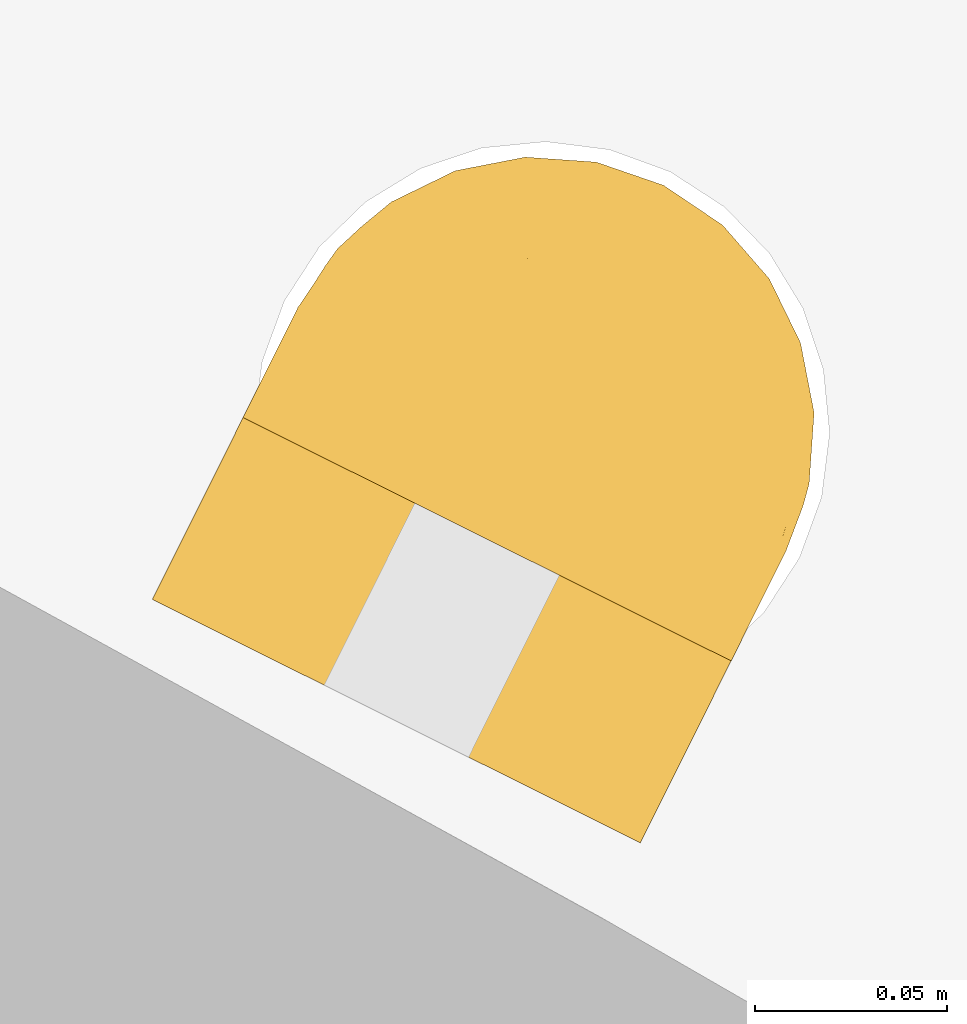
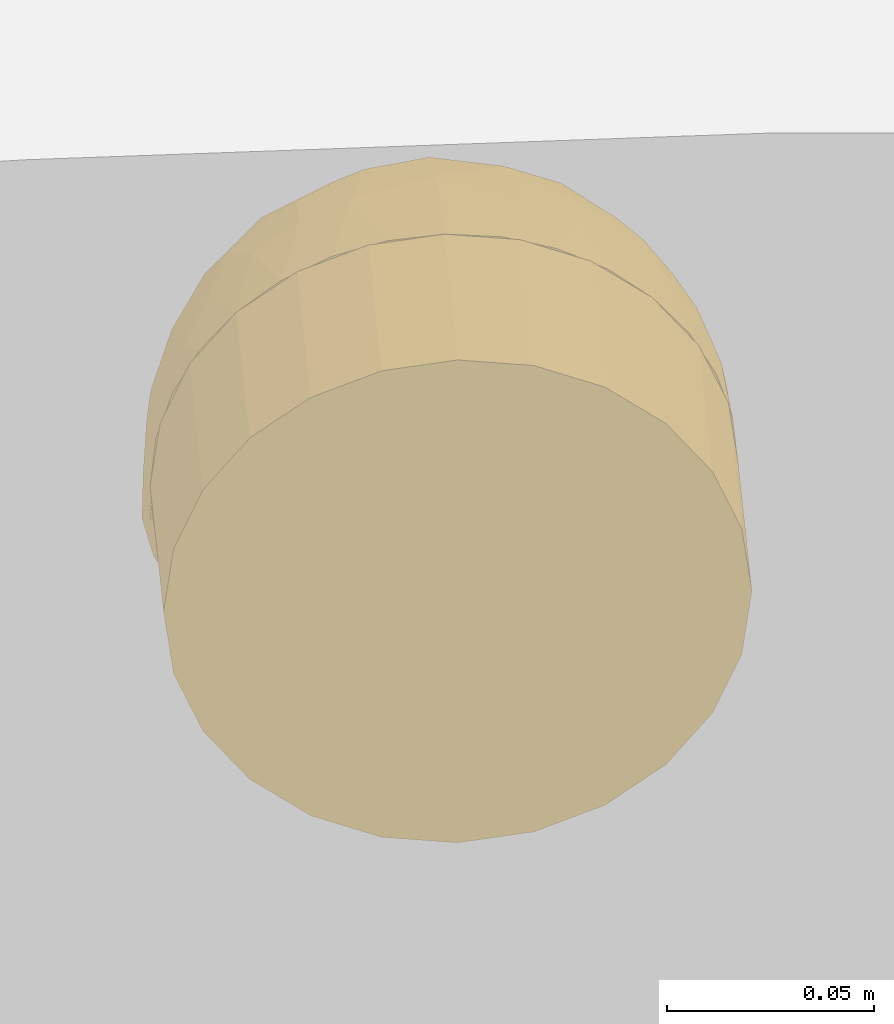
# One storey, part 7 of 34: 2 coverings.
"""IFC2X3 building model written with IfcOpenShell, lengths in metres."""

from ifc_helpers import new_model, entity, si_unit, converted_unit, derived_unit, direction, frame, origin, place, context, subcontext, project, spatial, faceted_brep, element, save


model = new_model("IFC2X3")

# Units and contexts
model_context = context("Model", 3, precision=1e-05, world=origin(), true_north=direction((0.894925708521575, 0.446215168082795)))
context_of_model = context(None, 3, precision=1e-05, world=origin(), true_north=direction((0.894925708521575, 0.446215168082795)))
body_context = subcontext(model_context, "Body", "Model", "MODEL_VIEW")
ifc_project = project(units=[si_unit("LENGTHUNIT", "METRE"), si_unit("AREAUNIT", "SQUARE_METRE"), si_unit("VOLUMEUNIT", "CUBIC_METRE"), converted_unit("PLANEANGLEUNIT", "DEGREE", entity("IfcRatioMeasure", 0.0174532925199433), si_unit("PLANEANGLEUNIT", "RADIAN"), dimensions=[0, 0, 0, 0, 0, 0, 0]), si_unit("MASSUNIT", "GRAM", prefix="KILO"), si_unit("TIMEUNIT", "SECOND"), si_unit("FREQUENCYUNIT", "HERTZ"), si_unit("THERMODYNAMICTEMPERATUREUNIT", "DEGREE_CELSIUS"), derived_unit("THERMALTRANSMITTANCEUNIT", [(si_unit("MASSUNIT", "GRAM", prefix="KILO"), 1), (si_unit("THERMODYNAMICTEMPERATUREUNIT", "KELVIN"), -1), (si_unit("TIMEUNIT", "SECOND"), -3)]), derived_unit("VOLUMETRICFLOWRATEUNIT", [(si_unit("LENGTHUNIT", "METRE"), 3), (si_unit("TIMEUNIT", "SECOND"), -1)]), si_unit("ELECTRICCURRENTUNIT", "AMPERE"), si_unit("ELECTRICVOLTAGEUNIT", "VOLT"), si_unit("POWERUNIT", "WATT"), si_unit("FORCEUNIT", "NEWTON", prefix="KILO"), si_unit("ILLUMINANCEUNIT", "LUX"), si_unit("LUMINOUSFLUXUNIT", "LUMEN"), si_unit("LUMINOUSINTENSITYUNIT", "CANDELA"), si_unit("PRESSUREUNIT", "PASCAL")], contexts=[model_context, context_of_model])

# Site, building, storey
site_placement = place(None, frame((218.228324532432, 584.720189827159, 0.0), z_axis=(0.0, 0.0, 1.0), x_axis=(0.446215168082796, 0.894925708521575, 0.0)))
site = spatial("IfcSite", under=ifc_project, at=site_placement, Name="Default", CompositionType="ELEMENT")
building_placement = place(site_placement, origin())
building = spatial("IfcBuilding", under=site, at=building_placement, CompositionType="ELEMENT")
storey_placement = place(building_placement, frame((0.0, 0.0, 8.61)))
storey = spatial("IfcBuildingStorey", under=building, at=storey_placement, Name="2 - Piano Secondo", CompositionType="ELEMENT", Elevation=8.61)

# Coverings
covering_1_placement = place(storey_placement, frame((-68.5918662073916, -4.22375626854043, 0.827322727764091)))
element("IfcCovering", 1, at=covering_1_placement, inside=storey, Name="Isolamento tubazione:Default", ObjectType="Isolamento tubazione:Default", PredefinedType="INSULATION", context=body_context, shape_type="Brep", body=[
    faceted_brep([(0.0530000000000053, 0.136148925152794, 0.040677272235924), (0.0530000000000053, 0.141829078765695, 0.0562249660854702), (0.0530000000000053, 0.143759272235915, 0.0726772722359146), (0.0530000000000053, 0.141337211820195, 0.0910746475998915), (0.0530000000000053, 0.134236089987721, 0.108218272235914), (0.0530000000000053, 0.122939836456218, 0.122939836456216), (0.0530000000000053, 0.108218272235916, 0.13423608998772), (0.0530000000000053, 0.0910746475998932, 0.141337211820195), (0.0530000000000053, 0.0726772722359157, 0.143759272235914), (0.0530000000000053, 0.0542798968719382, 0.141337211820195), (0.0530000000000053, 0.0371362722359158, 0.13423608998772), (0.0530000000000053, 0.0224147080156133, 0.122939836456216), (0.0530000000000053, 0.0111184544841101, 0.108218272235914), (0.0530000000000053, 0.00401733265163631, 0.0910746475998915), (0.0530000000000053, 0.0015952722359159, 0.0726772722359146), (0.0530000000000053, 0.00352546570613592, 0.0562249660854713), (0.0530000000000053, 0.00920561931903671, 0.040677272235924), (0.0, 0.122939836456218, 0.0224147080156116), (0.0, 0.108218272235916, 0.0111184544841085), (0.0, 0.0996464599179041, 0.00756789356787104), (0.0, 0.0910746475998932, 0.0040173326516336), (0.0, 0.0818759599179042, 0.00280630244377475), (0.0, 0.0726772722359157, 0.00159527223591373), (0.0, 0.0634785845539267, 0.00280630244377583), (0.0, 0.0542798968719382, 0.0040173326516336), (0.0, 0.0457080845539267, 0.00756789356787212), (0.0, 0.0371362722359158, 0.0111184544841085), (0.0, 0.0224147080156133, 0.0224147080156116), (0.0, 0.0111184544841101, 0.0371362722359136), (0.0, 0.00401733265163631, 0.0542798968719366), (0.0, 0.0015952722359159, 0.0726772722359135), (0.0, 0.00401733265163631, 0.0910746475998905), (0.0, 0.0111184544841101, 0.108218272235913), (0.0, 0.0224147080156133, 0.122939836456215), (0.0, 0.0371362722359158, 0.134236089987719), (0.0, 0.0542798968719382, 0.141337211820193), (0.0, 0.0726772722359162, 0.143759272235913), (0.0, 0.0910746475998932, 0.141337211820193), (0.0, 0.108218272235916, 0.134236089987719), (0.0, 0.122939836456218, 0.122939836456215), (0.0, 0.134236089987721, 0.108218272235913), (0.0, 0.141337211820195, 0.0910746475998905), (0.0, 0.143759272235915, 0.0726772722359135), (0.0, 0.141337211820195, 0.0542798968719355), (0.0, 0.134236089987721, 0.0371362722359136), (0.0151175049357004, 0.0596739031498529, 0.00279477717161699), (0.0419288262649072, 0.016130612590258, 0.0296060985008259), (0.0323113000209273, 0.0249640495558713, 0.0199885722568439), (0.0186755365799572, 0.047109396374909, 0.00635280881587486), (0.0139179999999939, 0.0726772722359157, 0.00159527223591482), (0.0244720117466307, 0.0354078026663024, 0.0121492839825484), (0.0151175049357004, 0.0856806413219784, 0.00279477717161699), (0.0186755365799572, 0.0982451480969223, 0.00635280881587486), (0.0323113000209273, 0.12039049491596, 0.0199885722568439), (0.0244720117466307, 0.109946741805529, 0.0121492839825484), (0.0419288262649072, 0.129223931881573, 0.0296060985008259)], [[[0, 1, 2, 3, 4, 5, 6, 7, 8, 9, 10, 11, 12, 13, 14, 15, 16]], [[17, 18, 19, 20, 21, 22, 23, 24, 25, 26, 27, 28, 29, 30, 31, 32, 33, 34, 35, 36, 37, 38, 39, 40, 41, 42, 43, 44]], [[15, 30, 29]], [[16, 29, 28]], [[45, 24, 23]], [[46, 28, 27]], [[14, 30, 15]], [[16, 15, 29]], [[46, 16, 28]], [[27, 47, 46]], [[48, 26, 25, 24]], [[22, 49, 23]], [[45, 23, 49]], [[47, 27, 50]], [[45, 48, 24]], [[50, 26, 48]], [[50, 27, 26]], [[49, 22, 21]], [[51, 21, 20]], [[52, 20, 19, 18]], [[52, 51, 20]], [[17, 53, 54]], [[52, 18, 54]], [[49, 21, 51]], [[54, 18, 17]], [[55, 17, 44]], [[0, 44, 43]], [[1, 43, 42]], [[55, 44, 0]], [[0, 43, 1]], [[42, 2, 1]], [[17, 55, 53]], [[2, 42, 41, 3]], [[3, 41, 40, 4]], [[5, 4, 40, 39]], [[7, 6, 38, 37]], [[8, 7, 37, 36]], [[39, 38, 6, 5]], [[8, 36, 35, 9]], [[9, 35, 34, 10]], [[33, 11, 10, 34]], [[13, 12, 32, 31]], [[14, 13, 31, 30]], [[33, 32, 12, 11]], [[48, 45, 49, 51, 52, 54, 53, 55, 0, 16, 46, 47, 50]]]),
])
covering_2_placement = place(storey_placement, frame((-68.5404614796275, -4.22377426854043, 0.866404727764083)))
element("IfcCovering", 2, at=covering_2_placement, inside=storey, Name="Isolamento tubazione:Default", ObjectType="Isolamento tubazione:Default", PredefinedType="INSULATION", context=body_context, shape_type="Brep", body=[
    faceted_brep([(0.00159527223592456, 0.00701017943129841, 0.0608106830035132), (0.00159527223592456, 0.013582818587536, 0.0731038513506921), (0.00159527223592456, 0.0224271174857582, 0.0838777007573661), (0.00159527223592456, 0.0332029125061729, 0.0927185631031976), (0.00159527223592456, 0.0454960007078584, 0.0992870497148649), (0.00159527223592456, 0.0588340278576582, 0.103331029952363), (0.00159527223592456, 0.072695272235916, 0.104695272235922), (0.00159527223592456, 0.0865703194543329, 0.10332828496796), (0.00159527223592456, 0.0999106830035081, 0.0992803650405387), (0.00159527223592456, 0.112203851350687, 0.0927077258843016), (0.00159527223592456, 0.12297770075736, 0.0838634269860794), (0.00159527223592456, 0.131818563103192, 0.0730876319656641), (0.00159527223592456, 0.138387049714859, 0.0607945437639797), (0.00159527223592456, 0.142431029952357, 0.0474565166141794), (0.00159527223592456, 0.143795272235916, 0.0335952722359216), (0.00159527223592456, 0.142971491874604, 0.022803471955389), (0.00159527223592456, 0.140522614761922, 0.0122724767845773), (0.00159527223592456, 0.136503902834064, 0.00223177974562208), (0.0015952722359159, 0.133021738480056, 0.00223177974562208), (0.0015952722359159, 0.127516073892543, 0.00223177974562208), (0.0015952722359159, 0.123022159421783, 0.00223177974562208), (0.0015952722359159, 0.118528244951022, 0.00223177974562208), (0.0015952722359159, 0.114034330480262, 0.00223177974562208), (0.0015952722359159, 0.109540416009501, 0.00223177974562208), (0.0015952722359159, 0.105046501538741, 0.00223177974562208), (0.0015952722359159, 0.100552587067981, 0.00223177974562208), (0.0015952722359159, 0.0960586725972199, 0.00223177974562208), (0.0015952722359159, 0.0915647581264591, 0.00223177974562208), (0.0015952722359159, 0.087070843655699, 0.00223177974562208), (0.0015952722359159, 0.0825769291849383, 0.00223177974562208), (0.0015952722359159, 0.0780830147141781, 0.00223177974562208), (0.0015952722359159, 0.0735891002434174, 0.00223177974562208), (0.0015952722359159, 0.0690951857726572, 0.00223177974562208), (0.0015952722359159, 0.0646012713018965, 0.00223177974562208), (0.0015952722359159, 0.0611191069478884, 0.00223177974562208), (0.0015952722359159, 0.0576369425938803, 0.00223177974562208), (0.0015952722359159, 0.0541547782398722, 0.00223177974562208), (0.0015952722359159, 0.0506726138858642, 0.00223177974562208), (0.0015952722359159, 0.0471904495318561, 0.00223177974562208), (0.0015952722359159, 0.043708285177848, 0.00223177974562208), (0.0015952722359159, 0.04022612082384, 0.002231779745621), (0.0015952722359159, 0.0367439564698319, 0.00223177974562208), (0.0015952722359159, 0.0332617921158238, 0.00223177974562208), (0.0015952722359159, 0.0297796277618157, 0.00223177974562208), (0.0015952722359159, 0.0262974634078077, 0.00223177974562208), (0.0015952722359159, 0.0228152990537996, 0.00223177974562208), (0.00159527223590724, 0.019333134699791, 0.00223177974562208), (0.0015952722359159, 0.0158509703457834, 0.00223177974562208), (0.0015952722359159, 0.0123688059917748, 0.00223177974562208), (0.00159527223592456, 0.00888664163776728, 0.00223177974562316), (0.00159527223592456, 0.00486548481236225, 0.012280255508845), (0.00159527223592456, 0.00241781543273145, 0.0228115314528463), (0.00159527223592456, 0.0015952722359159, 0.0335952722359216), (0.00159527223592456, 0.00296225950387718, 0.0474703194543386), (0.002231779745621, 0.136503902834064, 0.0015952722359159), (0.0174953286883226, 0.14194844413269, 0.0015952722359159), (0.0335952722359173, 0.143795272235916, 0.0015952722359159), (0.0519973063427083, 0.141372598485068, 0.0015952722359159), (0.0691452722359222, 0.134269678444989, 0.0015952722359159), (0.0838705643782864, 0.122970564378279, 0.0015952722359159), (0.0951696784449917, 0.108245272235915, 0.0015952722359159), (0.102272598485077, 0.0910973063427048, 0.0015952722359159), (0.104695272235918, 0.072695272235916, 0.0015952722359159), (0.102272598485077, 0.0542932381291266, 0.0015952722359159), (0.0951696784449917, 0.0371452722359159, 0.0015952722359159), (0.0838705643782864, 0.0224199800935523, 0.0015952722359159), (0.0691452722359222, 0.0111208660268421, 0.0015952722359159), (0.0519973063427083, 0.00401794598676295, 0.0015952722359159), (0.0335952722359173, 0.0015952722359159, 0.0015952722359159), (0.0174953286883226, 0.00344210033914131, 0.0015952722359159), (0.002231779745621, 0.00888664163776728, 0.0015952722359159), (0.002231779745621, 0.0123688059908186, 0.0015952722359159), (0.002231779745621, 0.0168627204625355, 0.0015952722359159), (0.002231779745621, 0.0208507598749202, 0.0015952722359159), (0.002231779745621, 0.0248387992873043, 0.0015952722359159), (0.002231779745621, 0.0288268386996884, 0.00159527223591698), (0.002231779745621, 0.0328148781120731, 0.00159527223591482), (0.002231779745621, 0.0368029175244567, 0.0015952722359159), (0.002231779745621, 0.0407909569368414, 0.0015952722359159), (0.002231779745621, 0.044778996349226, 0.0015952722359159), (0.002231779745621, 0.0487670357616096, 0.0015952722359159), (0.002231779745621, 0.0527550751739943, 0.0015952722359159), (0.002231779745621, 0.0567431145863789, 0.0015952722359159), (0.002231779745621, 0.0607311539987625, 0.0015952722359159), (0.002231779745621, 0.0647191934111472, 0.00159527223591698), (0.002231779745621, 0.0687072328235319, 0.00159527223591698), (0.002231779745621, 0.0726952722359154, 0.0015952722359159), (0.002231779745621, 0.0771891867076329, 0.00159527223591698), (0.002231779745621, 0.0816831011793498, 0.00159527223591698), (0.002231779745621, 0.0861770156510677, 0.0015952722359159), (0.002231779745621, 0.0906709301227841, 0.0015952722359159), (0.00223177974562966, 0.095164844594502, 0.00159527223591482), (0.00223177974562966, 0.0996587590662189, 0.00159527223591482), (0.002231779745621, 0.104152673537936, 0.0015952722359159), (0.002231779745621, 0.108646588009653, 0.00159527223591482), (0.002231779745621, 0.112128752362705, 0.0015952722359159), (0.002231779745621, 0.115610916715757, 0.0015952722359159), (0.00223177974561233, 0.119093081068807, 0.00159527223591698), (0.002231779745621, 0.122575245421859, 0.0015952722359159), (0.002231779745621, 0.12605740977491, 0.0015952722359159), (0.002231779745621, 0.129539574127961, 0.00159527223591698), (0.002231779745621, 0.133021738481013, 0.0015952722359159), (0.00203510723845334, 0.0271624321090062, 0.00205536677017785), (0.00207224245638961, 0.0228447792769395, 0.00201674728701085), (0.00205814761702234, 0.105639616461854, 0.00203217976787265), (0.0020672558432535, 0.101905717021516, 0.00202232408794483), (0.0020457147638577, 0.0867435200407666, 0.00204498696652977), (0.00204173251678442, 0.0668482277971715, 0.00204894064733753), (0.00204837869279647, 0.0708348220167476, 0.00204230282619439), (0.00204535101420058, 0.131280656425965, 0.00204535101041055), (0.00207554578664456, 0.127420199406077, 0.0020129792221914), (0.0020453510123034, 0.00888664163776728, 0.00204535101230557), (0.00204535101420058, 0.0141098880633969, 0.00204535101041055), (0.0020453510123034, 0.136503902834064, 0.00204535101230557), (0.00206663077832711, 0.0427849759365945, 0.00202301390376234), (0.00209621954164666, 0.12406761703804, 0.00198794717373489), (0.00203254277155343, 0.120775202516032, 0.00205780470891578), (0.00206121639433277, 0.110387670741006, 0.0020289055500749), (0.00202453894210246, 0.0524136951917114, 0.00206524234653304), (0.00204830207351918, 0.0628628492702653, 0.00204238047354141), (0.00205814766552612, 0.0831700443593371, 0.00203217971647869), (0.00206725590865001, 0.0794361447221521, 0.00202232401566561), (0.00206528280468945, 0.0747761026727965, 0.00202449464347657), (0.00204190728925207, 0.0979269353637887, 0.00204876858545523), (0.0020246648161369, 0.0939908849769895, 0.00206512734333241), (0.00210248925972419, 0.113677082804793, 0.00197981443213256), (0.0020126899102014, 0.0485334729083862, 0.00207579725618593), (0.00207663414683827, 0.0308953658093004, 0.00201172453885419), (0.00201996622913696, 0.0181058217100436, 0.00206937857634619), (0.00169880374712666, 0.136503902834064, 0.0021888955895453), (0.00180233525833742, 0.136503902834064, 0.00214601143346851), (0.00192384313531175, 0.136503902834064, 0.00209568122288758), (0.0019238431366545, 0.00888664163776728, 0.0020956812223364), (0.00180233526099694, 0.00888664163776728, 0.00214601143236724), (0.00169880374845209, 0.00888664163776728, 0.00218889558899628), (0.00218889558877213, 0.00888664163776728, 0.00169880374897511), (0.00214601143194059, 0.00888664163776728, 0.00180233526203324), (0.00209568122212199, 0.00888664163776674, 0.00192384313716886), (0.00209568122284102, 0.136503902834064, 0.00192384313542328), (0.00214601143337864, 0.136503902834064, 0.00180233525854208), (0.00218889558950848, 0.136503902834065, 0.00169880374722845), (0.00203710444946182, 0.0346305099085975, 0.00205344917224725), (0.00204938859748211, 0.038695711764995, 0.00204127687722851), (0.00206424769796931, 0.0587371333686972, 0.00202562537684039), (0.00203955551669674, 0.116928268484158, 0.00205107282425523), (0.00203525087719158, 0.0903177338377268, 0.00205522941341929), (0.0107009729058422, 0.140124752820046, 0.004125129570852), (0.0306367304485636, 0.143795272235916, 0.012636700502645), (0.0159641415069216, 0.141948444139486, 0.00840316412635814), (0.0293080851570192, 0.143795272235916, 0.0175952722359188), (0.0068436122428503, 0.139668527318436, 0.00780383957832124), (0.00930188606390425, 0.140275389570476, 0.00781942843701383), (0.0210748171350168, 0.142769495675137, 0.00597648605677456), (0.0125022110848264, 0.142149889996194, 0.0143635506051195), (0.00675337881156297, 0.141947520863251, 0.0166312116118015), (0.00912015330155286, 0.143354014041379, 0.0244809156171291), (0.0175952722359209, 0.143795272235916, 0.0293080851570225), (0.0121021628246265, 0.143120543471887, 0.0211833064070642), (0.00869695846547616, 0.143795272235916, 0.0316923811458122), (0.00959527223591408, 0.143795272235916, 0.0314516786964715), (0.0234516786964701, 0.143795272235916, 0.0234516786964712), (0.00790779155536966, 0.141108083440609, 0.0125435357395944), (0.0175207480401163, 0.142774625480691, 0.0136875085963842), (0.00824388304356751, 0.139421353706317, 0.00495037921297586), (0.0316923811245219, 0.143795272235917, 0.00869695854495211), (0.0321160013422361, 0.143795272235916, 0.007115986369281), (0.0513530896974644, 0.0893151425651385, 0.0896377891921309), (0.0334549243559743, 0.072695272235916, 0.0996491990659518), (0.0621959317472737, 0.072695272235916, 0.0850049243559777), (0.0440586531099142, 0.142051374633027, 0.0232156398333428), (0.041581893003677, 0.141372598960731, 0.0322780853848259), (0.0562970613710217, 0.138383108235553, 0.0242534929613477), (0.0743130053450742, 0.12910269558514, 0.021079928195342), (0.0647181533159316, 0.129776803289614, 0.0409572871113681), (0.0810427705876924, 0.115978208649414, 0.040376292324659), (0.0599045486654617, 0.138383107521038, 0.0118767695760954), (0.046423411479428, 0.142260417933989, 0.014661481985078), (0.0431686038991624, 0.106218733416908, 0.0866828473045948), (0.0717544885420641, 0.0958613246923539, 0.0717544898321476), (0.0996491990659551, 0.072695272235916, 0.0334549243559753), (0.101283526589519, 0.0860602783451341, 0.0223828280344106), (0.0920697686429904, 0.0874984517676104, 0.047694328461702), (0.0272220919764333, 0.0933399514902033, 0.0982939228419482), (0.0128832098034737, 0.135404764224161, 0.0661225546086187), (0.0133353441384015, 0.140736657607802, 0.0528987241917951), (0.0247248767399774, 0.141485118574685, 0.0458977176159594), (0.0953794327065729, 0.099904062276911, 0.0289347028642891), (0.0880937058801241, 0.115978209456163, 0.0198680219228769), (0.0514627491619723, 0.127662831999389, 0.0603936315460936), (0.0382311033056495, 0.136403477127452, 0.0535431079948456), (0.0401265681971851, 0.122566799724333, 0.0747432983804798), (0.0339145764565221, 0.141414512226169, 0.0400661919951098), (0.0254211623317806, 0.13540476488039, 0.0626158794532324), (0.0238706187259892, 0.117808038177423, 0.0856486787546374), (0.0221772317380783, 0.128216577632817, 0.0751851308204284), (0.0850049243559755, 0.072695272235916, 0.0621959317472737), (0.0859786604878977, 0.102581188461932, 0.0484394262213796), (0.025767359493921, 0.106218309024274, 0.0931594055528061), (0.0598720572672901, 0.113404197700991, 0.0705627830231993), (0.0738490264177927, 0.112029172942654, 0.0572917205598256), (0.0507519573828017, 0.134923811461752, 0.046221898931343), (0.00869695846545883, 0.00159527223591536, 0.0316923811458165), (0.0149194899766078, 0.00465846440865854, 0.0525258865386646), (0.10153018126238, 0.0599076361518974, 0.0217173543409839), (0.0235290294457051, 0.0520656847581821, 0.0992025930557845), (0.0924857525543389, 0.0454864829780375, 0.0373979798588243), (0.0951343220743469, 0.0595021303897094, 0.0419310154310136), (0.085191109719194, 0.0504699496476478, 0.0556262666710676), (0.097959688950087, 0.0454864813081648, 0.0176206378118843), (0.0245171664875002, 0.0282563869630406, 0.0860409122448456), (0.0351603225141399, 0.0391881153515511, 0.0901575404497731), (0.0174162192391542, 0.0391881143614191, 0.0949739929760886), (0.0717305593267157, 0.0494312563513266, 0.0717305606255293), (0.0434766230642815, 0.00285641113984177, 0.0189430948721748), (0.0293080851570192, 0.0015952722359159, 0.0175952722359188), (0.0306367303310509, 0.0015952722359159, 0.012636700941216), (0.0314516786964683, 0.0015952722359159, 0.00959527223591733), (0.0576405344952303, 0.00878913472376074, 0.0307270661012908), (0.0583741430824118, 0.00700743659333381, 0.0183833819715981), (0.0689103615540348, 0.0162878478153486, 0.035302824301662), (0.0871189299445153, 0.0294123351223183, 0.023991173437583), (0.0751662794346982, 0.0162878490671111, 0.0175585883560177), (0.0776305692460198, 0.0307050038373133, 0.0485711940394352), (0.0370869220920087, 0.00621925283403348, 0.0464806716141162), (0.0249228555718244, 0.00429322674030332, 0.0473971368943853), (0.0275832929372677, 0.00255877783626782, 0.0366850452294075), (0.0564255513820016, 0.0275978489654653, 0.0691008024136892), (0.0388237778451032, 0.0222616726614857, 0.0747878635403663), (0.0475956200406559, 0.0147818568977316, 0.0585950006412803), (0.0211120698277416, 0.0177403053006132, 0.0761973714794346), (0.0178449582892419, 0.00999426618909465, 0.0650713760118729), (0.0299222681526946, 0.00999449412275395, 0.0606791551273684), (0.0496335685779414, 0.0554031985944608, 0.0904000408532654), (0.054929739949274, 0.0413829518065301, 0.0812165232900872), (0.00959527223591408, 0.0015952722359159, 0.0314516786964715), (0.0175952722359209, 0.0015952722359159, 0.0293080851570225), (0.0665887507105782, 0.0373836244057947, 0.0691058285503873), (0.0461900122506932, 0.00287127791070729, 0.0101596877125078), (0.0634582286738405, 0.0202384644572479, 0.0523114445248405), (0.0537115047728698, 0.0116104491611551, 0.0458714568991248), (0.0461296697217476, 0.00569062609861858, 0.0351858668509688), (0.0234516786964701, 0.0015952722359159, 0.0234516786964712), (0.0321160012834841, 0.00159527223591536, 0.00711598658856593), (0.0245403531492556, 0.00212060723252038, 0.00604681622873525), (0.00369022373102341, 0.00583103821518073, 0.00913561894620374), (0.00585737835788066, 0.00537216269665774, 0.009675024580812), (0.0067585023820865, 0.00344117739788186, 0.0166378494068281), (0.0235852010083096, 0.00200983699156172, 0.0120139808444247), (0.00907987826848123, 0.00520911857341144, 0.00764012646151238), (0.00682464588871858, 0.00572682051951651, 0.00780221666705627), (0.0159641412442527, 0.00344210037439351, 0.00840316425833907), (0.0102789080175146, 0.00307858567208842, 0.0168494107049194), (0.0125071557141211, 0.00323988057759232, 0.0143639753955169), (0.0176022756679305, 0.00259903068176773, 0.0137438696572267), (0.0142189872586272, 0.00419789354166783, 0.00443451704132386)], [[[0, 1, 2, 3, 4, 5, 6, 7, 8, 9, 10, 11, 12, 13, 14, 15, 16, 17, 18, 19, 20, 21, 22, 23, 24, 25, 26, 27, 28, 29, 30, 31, 32, 33, 34, 35, 36, 37, 38, 39, 40, 41, 42, 43, 44, 45, 46, 47, 48, 49, 50, 51, 52, 53]], [[54, 55, 56, 57, 58, 59, 60, 61, 62, 63, 64, 65, 66, 67, 68, 69, 70, 71, 72, 73, 74, 75, 76, 77, 78, 79, 80, 81, 82, 83, 84, 85, 86, 87, 88, 89, 90, 91, 92, 93, 94, 95, 96, 97, 98, 99, 100, 101]], [[102, 74, 103]], [[24, 104, 105]], [[90, 89, 106]], [[107, 32, 108]], [[109, 100, 110]], [[33, 32, 107]], [[111, 48, 112]], [[18, 113, 109]], [[100, 109, 113, 101]], [[71, 111, 112, 72]], [[39, 38, 114, 40]], [[20, 115, 116]], [[117, 94, 104]], [[80, 118, 82, 81]], [[119, 33, 107]], [[29, 120, 121]], [[108, 122, 86]], [[110, 19, 109]], [[108, 32, 31]], [[107, 108, 85]], [[121, 30, 29]], [[25, 123, 26]], [[112, 48, 47]], [[18, 109, 19]], [[93, 92, 105]], [[124, 91, 90]], [[22, 125, 117]], [[126, 37, 118]], [[102, 43, 127]], [[112, 47, 128]], [[73, 128, 103]], [[18, 17, 129, 130, 131, 113]], [[48, 111, 132, 133, 134, 49]], [[71, 70, 135, 136, 137, 111]], [[101, 113, 138, 139, 140, 54]], [[72, 112, 128]], [[103, 74, 73]], [[25, 24, 105]], [[128, 46, 103]], [[73, 72, 128]], [[20, 116, 21]], [[110, 99, 115]], [[115, 20, 19]], [[76, 127, 141]], [[142, 114, 78]], [[95, 125, 96]], [[127, 76, 75]], [[102, 103, 44]], [[103, 46, 45, 44]], [[119, 143, 34]], [[85, 84, 107]], [[143, 118, 36]], [[84, 119, 107]], [[86, 85, 108]], [[87, 121, 88]], [[31, 122, 108]], [[122, 87, 86]], [[31, 30, 122]], [[121, 87, 122]], [[35, 34, 143, 36]], [[83, 143, 119]], [[82, 143, 83]], [[119, 84, 83]], [[143, 82, 118]], [[36, 118, 37]], [[126, 114, 38]], [[42, 41, 141]], [[80, 126, 118]], [[79, 114, 126]], [[78, 114, 79]], [[126, 80, 79]], [[142, 40, 114]], [[41, 142, 141]], [[142, 77, 141]], [[43, 42, 127]], [[75, 74, 102]], [[76, 141, 77]], [[142, 78, 77]], [[127, 42, 141]], [[102, 127, 75]], [[116, 97, 144]], [[144, 21, 116]], [[98, 116, 115]], [[95, 94, 117]], [[23, 22, 117]], [[22, 21, 144]], [[96, 125, 144]], [[125, 95, 117]], [[24, 23, 104]], [[38, 37, 126]], [[110, 100, 99]], [[104, 93, 105]], [[124, 123, 91]], [[92, 123, 105]], [[105, 123, 25]], [[92, 91, 123]], [[124, 26, 123]], [[124, 27, 26]], [[145, 27, 124]], [[93, 104, 94]], [[117, 104, 23]], [[120, 88, 121]], [[30, 121, 122]], [[106, 145, 90]], [[89, 88, 120]], [[145, 124, 90]], [[120, 29, 28]], [[145, 28, 27]], [[106, 28, 145]], [[34, 33, 119]], [[128, 47, 46]], [[144, 125, 22]], [[96, 144, 97]], [[116, 98, 97]], [[142, 41, 40]], [[98, 115, 99]], [[19, 110, 115]], [[44, 43, 102]], [[106, 120, 28]], [[120, 106, 89]], [[54, 140, 139, 146]], [[147, 148, 149]], [[113, 150, 151]], [[55, 152, 56]], [[151, 138, 113]], [[129, 17, 16]], [[151, 150, 153]], [[130, 129, 154]], [[154, 129, 16]], [[155, 156, 157]], [[15, 14, 158, 159]], [[159, 155, 15]], [[160, 153, 157]], [[153, 150, 161]], [[151, 162, 148]], [[16, 15, 154]], [[146, 152, 55]], [[153, 161, 157]], [[163, 146, 139]], [[152, 146, 148]], [[54, 146, 55]], [[148, 147, 152]], [[152, 147, 164, 165, 56]], [[163, 139, 138]], [[162, 151, 153]], [[163, 151, 148]], [[153, 160, 162]], [[149, 148, 162]], [[151, 163, 138]], [[149, 162, 160]], [[146, 163, 148]], [[161, 130, 154]], [[161, 131, 130]], [[150, 113, 131]], [[131, 161, 150]], [[157, 161, 154]], [[155, 157, 154]], [[157, 156, 160]], [[15, 155, 154]], [[156, 155, 159]], [[166, 167, 168]], [[169, 170, 171]], [[172, 173, 174]], [[171, 175, 176]], [[177, 166, 178]], [[179, 180, 181]], [[7, 167, 182]], [[8, 7, 182]], [[183, 184, 12]], [[185, 156, 159, 158]], [[186, 60, 187]], [[61, 180, 62]], [[188, 189, 190]], [[60, 186, 61]], [[58, 175, 172]], [[158, 14, 13]], [[60, 59, 187]], [[185, 191, 156]], [[192, 189, 185]], [[180, 61, 186]], [[193, 10, 9]], [[194, 10, 193]], [[185, 158, 184]], [[184, 13, 12]], [[58, 172, 59]], [[178, 168, 195]], [[196, 181, 186]], [[158, 13, 184]], [[192, 194, 190]], [[197, 182, 177]], [[197, 9, 8]], [[182, 166, 177]], [[58, 57, 175]], [[188, 190, 198]], [[7, 6, 167]], [[193, 197, 177]], [[194, 192, 183]], [[184, 192, 185]], [[188, 199, 173]], [[11, 183, 12]], [[173, 172, 171]], [[181, 195, 179]], [[187, 172, 174]], [[57, 56, 165, 164]], [[189, 192, 190]], [[160, 156, 191]], [[176, 169, 171]], [[160, 170, 149]], [[189, 188, 200]], [[11, 10, 194]], [[184, 183, 192]], [[194, 183, 11]], [[194, 193, 190]], [[193, 177, 190]], [[198, 190, 177]], [[177, 178, 198]], [[178, 196, 199]], [[200, 171, 170]], [[199, 188, 198]], [[167, 166, 182]], [[178, 166, 168]], [[172, 187, 59]], [[186, 187, 174]], [[200, 188, 173]], [[191, 185, 189]], [[171, 200, 173]], [[191, 200, 170]], [[200, 191, 189]], [[160, 191, 170]], [[176, 57, 164]], [[172, 175, 171]], [[57, 176, 175]], [[176, 164, 147, 149]], [[176, 149, 169]], [[149, 170, 169]], [[196, 186, 174]], [[178, 195, 181]], [[199, 196, 174]], [[178, 181, 196]], [[173, 199, 174]], [[178, 199, 198]], [[9, 197, 193]], [[8, 182, 197]], [[181, 180, 186]], [[62, 180, 179]], [[53, 201, 202]], [[62, 179, 203]], [[4, 204, 5]], [[205, 203, 206]], [[206, 207, 205]], [[208, 203, 205]], [[209, 210, 211]], [[212, 195, 168]], [[213, 214, 215, 216]], [[217, 218, 219]], [[64, 220, 65]], [[221, 218, 66]], [[222, 219, 220]], [[221, 66, 65]], [[220, 64, 208]], [[223, 224, 225]], [[226, 227, 228]], [[229, 230, 231]], [[204, 232, 167]], [[233, 232, 210]], [[2, 1, 229]], [[2, 229, 209]], [[233, 212, 232]], [[204, 4, 211]], [[6, 5, 167]], [[63, 208, 64]], [[167, 5, 204]], [[53, 52, 201]], [[230, 202, 231]], [[3, 2, 209]], [[230, 1, 0]], [[227, 210, 209]], [[224, 223, 231]], [[0, 53, 202]], [[66, 218, 67]], [[226, 233, 227]], [[204, 210, 232]], [[224, 201, 234, 235]], [[168, 167, 232]], [[3, 211, 4]], [[233, 236, 212]], [[218, 213, 237]], [[212, 168, 232]], [[219, 222, 238]], [[239, 223, 240]], [[222, 220, 205]], [[221, 220, 219]], [[222, 205, 207]], [[238, 226, 228]], [[213, 240, 214]], [[67, 237, 68]], [[204, 211, 210]], [[209, 211, 3]], [[209, 229, 227]], [[229, 231, 227]], [[228, 227, 231]], [[223, 228, 231]], [[239, 219, 238]], [[224, 231, 202]], [[225, 240, 223]], [[220, 221, 65]], [[214, 240, 241]], [[218, 221, 219]], [[237, 213, 216]], [[213, 218, 217]], [[237, 216, 242, 68]], [[218, 237, 67]], [[201, 224, 202]], [[225, 224, 235]], [[235, 241, 225]], [[240, 225, 241]], [[227, 233, 210]], [[236, 233, 226]], [[238, 236, 226]], [[207, 236, 222]], [[203, 208, 63]], [[220, 208, 205]], [[62, 203, 63]], [[203, 179, 206]], [[179, 195, 206]], [[207, 195, 212]], [[195, 207, 206]], [[207, 212, 236]], [[238, 222, 236]], [[239, 238, 228]], [[223, 239, 228]], [[239, 240, 217]], [[1, 230, 229]], [[0, 202, 230]], [[239, 217, 219]], [[213, 217, 240]], [[243, 68, 242, 216, 215]], [[244, 245, 246]], [[214, 247, 215]], [[111, 248, 249]], [[137, 136, 250]], [[246, 51, 50]], [[246, 245, 251]], [[50, 244, 246]], [[246, 234, 51]], [[241, 252, 253]], [[132, 245, 133]], [[250, 247, 253]], [[235, 234, 251]], [[50, 134, 244]], [[69, 254, 70]], [[249, 132, 111]], [[50, 49, 134]], [[133, 244, 134]], [[245, 244, 133]], [[245, 249, 251]], [[254, 69, 243]], [[247, 243, 215]], [[111, 137, 248]], [[241, 253, 214]], [[250, 254, 243]], [[250, 243, 247]], [[68, 243, 69]], [[252, 241, 235]], [[253, 247, 214]], [[248, 250, 253]], [[252, 249, 248]], [[250, 248, 137]], [[252, 248, 253]], [[250, 136, 254]], [[254, 136, 135, 70]], [[252, 235, 251]], [[51, 234, 201, 52]], [[251, 249, 252]], [[132, 249, 245]], [[251, 234, 246]]]),
])

save(model, "model.ifc")
